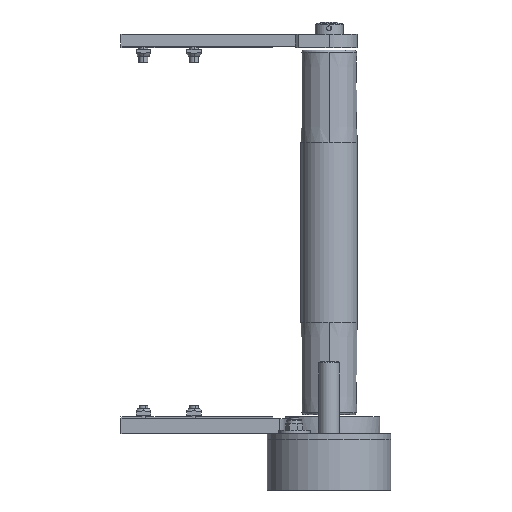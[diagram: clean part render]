
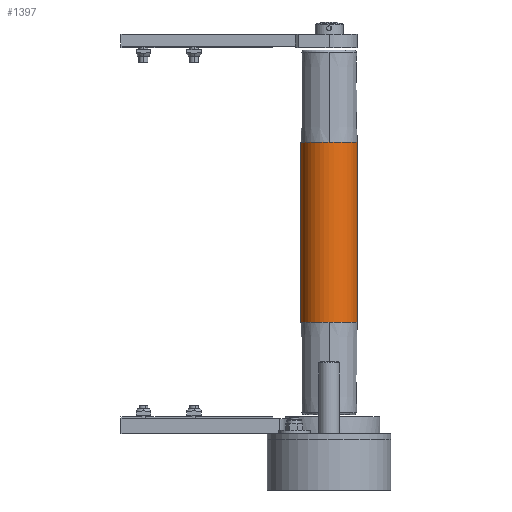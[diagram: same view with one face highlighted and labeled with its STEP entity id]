
A CAD part, front view. The second image highlights one B-rep face of the part: STEP entity #1397.
In plain terms, the highlighted cylindrical face has radius 25 mm (diameter 50 mm), a partial arc.
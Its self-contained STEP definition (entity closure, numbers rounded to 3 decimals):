
#57 = DIRECTION ( 'NONE',  ( 0., 0., -1. ) ) ;
#62 = CARTESIAN_POINT ( 'NONE',  ( 25., 0., 160. ) ) ;
#136 = CARTESIAN_POINT ( 'NONE',  ( -25., 0., 160. ) ) ;
#137 = DIRECTION ( 'NONE',  ( 0., 0., -1. ) ) ;
#185 = CARTESIAN_POINT ( 'NONE',  ( 0., 0., -80. ) ) ;
#186 = DIRECTION ( 'NONE',  ( 0., 0., -1. ) ) ;
#187 = DIRECTION ( 'NONE',  ( 0., -1., 0. ) ) ;
#245 = CARTESIAN_POINT ( 'NONE',  ( 0., 0., 80. ) ) ;
#246 = DIRECTION ( 'NONE',  ( 0., 0., -1. ) ) ;
#247 = DIRECTION ( 'NONE',  ( 0., -1., 0. ) ) ;
#609 = AXIS2_PLACEMENT_3D ( 'NONE', #7902, #7900, #7901 ) ;
#622 = AXIS2_PLACEMENT_3D ( 'NONE', #7917, #7926, #7918 ) ;
#631 = EDGE_CURVE ( 'NONE', #10525, #10233, #3236, .T. ) ;
#642 = EDGE_CURVE ( 'NONE', #10516, #10278, #3249, .T. ) ;
#1397 = ADVANCED_FACE ( 'NONE', ( #9994 ), #9999, .T. ) ;
#2300 = AXIS2_PLACEMENT_3D ( 'NONE', #4640, #4702, #4715 ) ;
#3236 = CIRCLE ( 'NONE', #609, 25. ) ;
#3249 = CIRCLE ( 'NONE', #622, 25. ) ;
#3501 = EDGE_LOOP ( 'NONE', ( #3691, #3690, #4182, #4131, #4166, #4163 ) ) ;
#3690 = ORIENTED_EDGE ( 'NONE', *, *, #631, .T. ) ;
#3691 = ORIENTED_EDGE ( 'NONE', *, *, #11705, .F. ) ;
#4131 = ORIENTED_EDGE ( 'NONE', *, *, #11734, .T. ) ;
#4163 = ORIENTED_EDGE ( 'NONE', *, *, #642, .F. ) ;
#4166 = ORIENTED_EDGE ( 'NONE', *, *, #11739, .F. ) ;
#4182 = ORIENTED_EDGE ( 'NONE', *, *, #11763, .T. ) ;
#4640 = CARTESIAN_POINT ( 'NONE',  ( 0., 0., 160. ) ) ;
#4702 = DIRECTION ( 'NONE',  ( 0., 0., -1. ) ) ;
#4715 = DIRECTION ( 'NONE',  ( -1., 0., 0. ) ) ;
#6244 = CARTESIAN_POINT ( 'NONE',  ( 0., -25., 80. ) ) ;
#6282 = CARTESIAN_POINT ( 'NONE',  ( 0., -25., -80. ) ) ;
#6320 = CARTESIAN_POINT ( 'NONE',  ( -25., 0., -80. ) ) ;
#6334 = CARTESIAN_POINT ( 'NONE',  ( 25., 0., -80. ) ) ;
#6339 = CARTESIAN_POINT ( 'NONE',  ( 25., 0., 80. ) ) ;
#6357 = CARTESIAN_POINT ( 'NONE',  ( -25., 0., 80. ) ) ;
#7900 = DIRECTION ( 'NONE',  ( 0., 0., -1. ) ) ;
#7901 = DIRECTION ( 'NONE',  ( 0., -1., 0. ) ) ;
#7902 = CARTESIAN_POINT ( 'NONE',  ( 0., 0., 80. ) ) ;
#7917 = CARTESIAN_POINT ( 'NONE',  ( 0., 0., -80. ) ) ;
#7918 = DIRECTION ( 'NONE',  ( 0., -1., 0. ) ) ;
#7926 = DIRECTION ( 'NONE',  ( 0., 0., -1. ) ) ;
#9994 = FACE_OUTER_BOUND ( 'NONE', #3501, .T. ) ;
#9999 = CYLINDRICAL_SURFACE ( 'NONE', #2300, 25. ) ;
#10233 = VERTEX_POINT ( 'NONE', #6244 ) ;
#10278 = VERTEX_POINT ( 'NONE', #6282 ) ;
#10410 = VERTEX_POINT ( 'NONE', #6320 ) ;
#10516 = VERTEX_POINT ( 'NONE', #6334 ) ;
#10525 = VERTEX_POINT ( 'NONE', #6339 ) ;
#10611 = VERTEX_POINT ( 'NONE', #6357 ) ;
#11705 = EDGE_CURVE ( 'NONE', #10525, #10516, #13051, .T. ) ;
#11734 = EDGE_CURVE ( 'NONE', #10611, #10410, #13090, .T. ) ;
#11739 = EDGE_CURVE ( 'NONE', #10278, #10410, #13093, .T. ) ;
#11763 = EDGE_CURVE ( 'NONE', #10233, #10611, #13132, .T. ) ;
#12664 = AXIS2_PLACEMENT_3D ( 'NONE', #185, #186, #187 ) ;
#12676 = AXIS2_PLACEMENT_3D ( 'NONE', #245, #246, #247 ) ;
#13051 = LINE ( 'NONE', #62, #13053 ) ;
#13053 = VECTOR ( 'NONE', #57, 1000. ) ;
#13090 = LINE ( 'NONE', #136, #13092 ) ;
#13092 = VECTOR ( 'NONE', #137, 1000. ) ;
#13093 = CIRCLE ( 'NONE', #12664, 25. ) ;
#13132 = CIRCLE ( 'NONE', #12676, 25. ) ;
